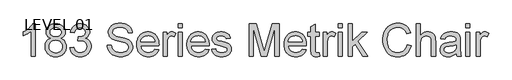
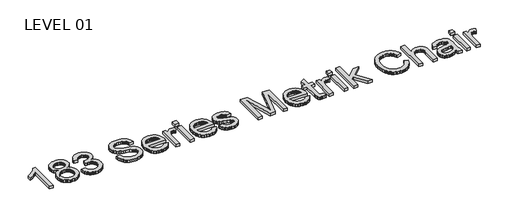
# One storey, incomplete: 1 proxy.
"""IFC4 building model written with IfcOpenShell, lengths in millimetres."""

from ifc_helpers import new_model, si_unit, origin, origin_with_axes, place, context, project, spatial, polyline, outline, extrude, element, save

model = new_model("IFC4")

# Units and contexts
model_context = context("Model", 3, world=origin())
ifc_project = project(units=[si_unit("LENGTHUNIT", "METRE", prefix="MILLI")], contexts=[model_context])

# Site, building, storey
site = spatial("IfcSite", under=ifc_project)
building = spatial("IfcBuilding", under=site)
storey = spatial("IfcBuildingStorey", under=building, Name="LEVEL 01", Elevation=0.0)

# Proxy
placement = place(None, origin())
element("IfcBuildingElementProxy", 1, Name="72\" Arial", ObjectType="72\" Arial", at=placement, inside=storey, context=model_context, shape_type="SweptSolid", body=[
    extrude(outline(polyline([(-28091.2551344, -45475.3556235), (-28315.144589, -45475.3556235), (-28315.144589, -44079.5448053), (-28358.7363468, -44117.356214), (-28408.6140634, -44155.1402925), (-28464.7777388, -44192.8970407), (-28527.2273731, -44230.6264587), (-28651.744018, -44296.6016959), (-28762.9234981, -44343.6643962), (-28762.9234981, -44132.0188962), (-28672.0640631, -44086.45936), (-28587.080633, -44036.3630013), (-28507.9732079, -43981.7298202), (-28434.7417878, -43922.5598167), (-28369.5727932, -43861.5860162), (-28314.6526444, -43801.5414445), (-28269.9813415, -43742.4261015), (-28235.5588844, -43684.2399871), (-28091.2551344, -43684.2399871), (-28091.2551344, -45475.3556235)])), origin_with_axes(), (0.0, 0.0, 1.0), 152.4),
    extrude(outline(polyline([(-27233.3037481, -44488.8427144), (-27297.7074956, -44461.9497428), (-27353.1742495, -44429.8093621), (-27399.7040098, -44392.4215723), (-27437.2967765, -44349.7863735), (-27466.2805126, -44302.3137194), (-27486.9831813, -44250.4135638), (-27499.4047825, -44194.0859069), (-27503.5453163, -44133.3307485), (-27501.2905702, -44086.72583), (-27494.5263319, -44042.0203642), (-27483.2526014, -43999.2143513), (-27467.4693788, -43958.3077911), (-27447.1766639, -43919.3006837), (-27422.3744569, -43882.193029), (-27393.0627577, -43846.9848271), (-27359.2415663, -43813.676078), (-27321.6692973, -43783.3394942), (-27281.1043653, -43757.0477883), (-27237.5467703, -43734.8009601), (-27190.9965123, -43716.5990098), (-27141.4535913, -43702.4419374), (-27088.9180073, -43692.3297428), (-27033.3897603, -43686.262426), (-26974.8688503, -43684.2399871), (-26916.1019681, -43686.310254), (-26860.2730883, -43692.5210546), (-26807.382211, -43702.8723889), (-26757.4293361, -43717.364257), (-26710.4144638, -43735.9966588), (-26666.337594, -43758.7695944), (-26625.1987266, -43785.6830636), (-26586.9978617, -43816.7370667), (-26552.5617395, -43850.763235), (-26522.7171003, -43886.5932002), (-26497.4639441, -43924.2269623), (-26476.8022708, -43963.6645212), (-26460.7320805, -44004.905877), (-26449.2533731, -44047.9510297), (-26442.3661486, -44092.7999793), (-26440.0704072, -44139.4527258), (-26444.1562804, -44198.0624591), (-26456.4139001, -44252.7639658), (-26476.8432662, -44303.557246), (-26505.4443788, -44350.4422996), (-26542.3538891, -44392.7905308), (-26587.7084484, -44429.9733437), (-26641.5080567, -44461.9907382), (-26703.752714, -44488.8427144), (-26630.1660006, -44520.1495223), (-26565.9535648, -44559.8467187), (-26511.1154068, -44607.9343035), (-26465.6515265, -44664.4122769), (-26429.9718777, -44728.023447), (-26404.4864143, -44797.5106221), (-26389.1951362, -44872.8738021), (-26384.0980435, -44954.1129871), (-26386.6260922, -45011.1102353), (-26394.2102381, -45065.7844118), (-26406.8504814, -45118.1355166), (-26424.5468219, -45168.1635496), (-26447.2992598, -45215.8685109), (-26475.1077949, -45261.2504005), (-26507.9724274, -45304.3092183), (-26545.8931572, -45345.0449644), (-26587.9407555, -45382.1457865), (-26633.1859938, -45414.2998323), (-26681.628872, -45441.5071018), (-26733.2693901, -45463.7675951), (-26788.1075481, -45481.081312), (-26846.1433461, -45493.4482527), (-26907.3767839, -45500.8684172), (-26971.8078617, -45503.3418053), (-27036.2389395, -45500.8581683), (-27097.4723773, -45493.4072574), (-27155.5081753, -45480.9890724), (-27210.3463333, -45463.6036135), (-27261.9868514, -45441.2508807), (-27310.4297296, -45413.9308738), (-27355.6749679, -45381.643593), (-27397.7225663, -45344.3890383), (-27435.643296, -45303.4244013), (-27468.5079285, -45260.0068738), (-27496.3164636, -45214.136456), (-27519.0689015, -45165.8131476), (-27536.765242, -45115.0369489), (-27549.4054853, -45061.8078596), (-27556.9896312, -45006.12588), (-27559.5176799, -44947.9910098), (-27554.2156103, -44863.0485752), (-27538.3094015, -44785.321328), (-27511.7990535, -44714.8092684), (-27494.5673273, -44682.2589339), (-27474.6845663, -44651.5123962), (-27452.3557474, -44622.8566231), (-27427.7858475, -44596.5785823), (-27400.9748667, -44572.6782737), (-27371.9228049, -44551.1556973), (-27307.0954384, -44515.2437414), (-27233.3037481, -44488.8427144)]), holes=[polyline([(-27279.6558617, -44139.8900098), (-27274.6954203, -44191.21623), (-27259.8140961, -44237.6230042), (-27235.0118891, -44279.1103323), (-27200.2887992, -44315.6782144), (-27156.0821106, -44345.5228536), (-27102.8291074, -44366.840453), (-27040.5297896, -44379.6310127), (-26969.1841572, -44383.8945326), (-26899.6013262, -44379.6583429), (-26838.654856, -44366.9497741), (-26786.3447466, -44345.7688259), (-26742.6709981, -44316.1154985), (-26708.2348759, -44280.3128635), (-26683.6376458, -44240.6839928), (-26668.8793077, -44197.2288863), (-26663.9598617, -44149.9475439), (-26669.0432893, -44100.8214093), (-26684.2935719, -44055.7674829), (-26709.7107097, -44014.7857645), (-26745.2947026, -43977.8762542), (-26789.9523404, -43947.3620237), (-26842.5904128, -43925.5661448), (-26903.2089199, -43912.4886174), (-26971.8078617, -43908.1294417), (-27040.9397435, -43912.3929616), (-27101.8452182, -43925.1835212), (-27154.5242861, -43946.5011206), (-27198.9769469, -43976.3457598), (-27234.2739721, -44012.1483948), (-27259.486133, -44051.3399814), (-27274.6134295, -44093.9205198), (-27279.6558617, -44139.8900098)]), polyline([(-27335.6282253, -44940.1198962), (-27333.2914885, -44983.2880351), (-27326.2812779, -45025.7729175), (-27314.5975936, -45067.5745436), (-27298.2404356, -45108.6929133), (-27275.9526121, -45147.1602481), (-27246.4769313, -45181.0087698), (-27209.8133933, -45210.2384782), (-27165.9619981, -45234.8493735), (-27118.1340506, -45254.363176), (-27069.540856, -45268.3016064), (-27020.1824143, -45276.6646647), (-26970.0587253, -45279.4523508), (-26889.106508, -45273.5900109), (-26852.1969977, -45266.2620861), (-26817.6652197, -45256.0029914), (-26785.5111739, -45242.8127267), (-26755.7348603, -45226.6912922), (-26728.336279, -45207.6386877), (-26703.3154299, -45185.6549133), (-26680.9729459, -45161.4095602), (-26661.6094597, -45135.5722197), (-26645.2249714, -45108.1428919), (-26631.819481, -45079.1215766), (-26621.3929885, -45048.508274), (-26613.9454938, -45016.3029839), (-26607.9874981, -44947.1164417), (-26609.524825, -44911.1771554), (-26614.1368056, -44876.8230241), (-26621.82344, -44844.0540475), (-26632.5847282, -44812.8702258), (-26646.4206701, -44783.2715589), (-26663.3312658, -44755.2580468), (-26683.3165153, -44728.8296895), (-26706.3764185, -44703.9864871), (-26732.1351845, -44681.4390262), (-26760.2170222, -44661.8978934), (-26790.6219317, -44645.3630887), (-26823.3499128, -44631.8346121), (-26858.4009658, -44621.3124637), (-26895.7750904, -44613.7966434), (-26977.4925549, -44607.7839871), (-27057.2559061, -44613.7146526), (-27093.6632229, -44621.1279845), (-27127.7543006, -44631.5066491), (-27159.5291391, -44644.8506464), (-27188.9877385, -44661.1599765), (-27216.1300987, -44680.4346393), (-27240.9562197, -44702.6746348), (-27263.144971, -44727.1420462), (-27282.3752221, -44753.0989566), (-27298.6469731, -44780.5453658), (-27311.9602239, -44809.4812741), (-27322.3149745, -44839.9066812), (-27329.711225, -44871.8215873), (-27335.6282253, -44940.1198962)])]), origin_with_axes(), (0.0, 0.0, 1.0), 152.4),
    extrude(outline(polyline([(-26188.1947708, -44999.5905326), (-25964.3053163, -44971.6043508), (-25942.154144, -45047.6644523), (-25914.1816273, -45112.300507), (-25880.3877662, -45165.5125148), (-25840.7725606, -45207.3004758), (-25794.4341121, -45238.8669211), (-25740.4705222, -45261.414382), (-25678.881791, -45274.9428586), (-25609.6679185, -45279.4523508), (-25568.0166089, -45277.9013587), (-25528.5517197, -45273.2483827), (-25491.2732509, -45265.4934227), (-25456.1812026, -45254.6364786), (-25423.2755748, -45240.6775505), (-25392.5563674, -45223.6166384), (-25364.0235805, -45203.4537423), (-25337.677214, -45180.1888621), (-25314.00238, -45154.6350731), (-25293.4841905, -45127.6054502), (-25276.1226456, -45099.0999935), (-25261.9177452, -45069.118703), (-25250.8694894, -45037.6615787), (-25242.977878, -45004.7286206), (-25238.2429112, -44970.3198287), (-25236.664589, -44934.435203), (-25238.2292461, -44900.2074741), (-25242.9232175, -44867.4897417), (-25250.7465032, -44836.282006), (-25261.6991032, -44806.5842669), (-25275.7810174, -44778.3965245), (-25292.9922459, -44751.7187787), (-25313.3327887, -44726.5510295), (-25336.8026458, -44702.8932769), (-25362.6843979, -44681.4219448), (-25390.2606259, -44662.8134569), (-25419.5313297, -44647.0678134), (-25450.4965094, -44634.1850141), (-25483.156165, -44624.1650591), (-25517.5102964, -44617.0079484), (-25591.3019867, -44611.2822598), (-25662.0326884, -44617.4042371), (-25748.2869753, -44635.7701689), (-25723.3617822, -44411.8807144), (-25687.5044867, -44414.5044189), (-25618.6595726, -44410.4868714), (-25553.3675918, -44398.4342286), (-25491.6285442, -44378.3464907), (-25433.4424299, -44350.2236576), (-25407.0004075, -44333.0739221), (-25384.0839881, -44313.7650965), (-25364.6931717, -44292.2971807), (-25348.8279583, -44268.6701746), (-25336.4883479, -44242.8840784), (-25327.6743404, -44214.9388919), (-25322.3859359, -44184.8346153), (-25320.6231344, -44152.5712485), (-25325.7338922, -44101.9419498), (-25341.0661657, -44055.8768039), (-25366.6199547, -44014.3758106), (-25402.3952594, -43977.4389701), (-25446.2329895, -43947.1160514), (-25495.9740549, -43925.4568238), (-25551.6184555, -43912.4612872), (-25613.1661913, -43908.1294417), (-25674.5499455, -43912.5022826), (-25730.5769697, -43925.6208053), (-25781.2472637, -43947.4850098), (-25826.5608276, -43978.0948962), (-25865.3971209, -44017.4504644), (-25896.6356032, -44065.5517144), (-25920.2762743, -44122.3986462), (-25936.3191344, -44187.9912598), (-26160.208589, -44160.005078), (-26148.5454024, -44104.9687756), (-26133.6709107, -44053.1164481), (-26115.585114, -44004.4480953), (-26094.2880123, -43958.9637172), (-26069.7796055, -43916.663314), (-26042.0598937, -43877.5468856), (-26011.1288768, -43841.6144319), (-25976.9865549, -43808.865953), (-25940.1453702, -43779.6567423), (-25901.1177651, -43754.3420929), (-25859.9037395, -43732.9220051), (-25816.5032935, -43715.3964786), (-25770.916427, -43701.7655136), (-25723.1431401, -43692.02911), (-25673.1834327, -43686.1872678), (-25621.0373049, -43684.2399871), (-25549.2270581, -43688.079888), (-25480.2864881, -43699.5995908), (-25414.215595, -43718.7990954), (-25351.0143788, -43745.6784019), (-25292.8829249, -43779.2126256), (-25242.0213191, -43818.376882), (-25198.4295613, -43863.1711711), (-25162.1076515, -43913.5954928), (-25133.5065389, -43967.6410734), (-25113.0771728, -44023.2991391), (-25100.8195531, -44080.5696899), (-25096.7336799, -44139.4527258), (-25100.6145762, -44194.8238238), (-25112.2572651, -44247.6805383), (-25131.6617466, -44298.0228692), (-25158.8280208, -44345.8508167), (-25193.592106, -44390.0438401), (-25235.7900208, -44429.4813991), (-25285.4217651, -44464.1634935), (-25342.487339, -44494.0901235), (-25267.875741, -44517.4301618), (-25233.9725588, -44532.8307609), (-25202.3377878, -44550.7184133), (-25172.9714281, -44571.0931189), (-25145.8734796, -44593.9548777), (-25121.0439423, -44619.3036899), (-25098.4828163, -44647.1395553), (-25078.3950783, -44677.1345109), (-25060.9857055, -44708.9605937), (-25034.2020549, -44778.1061405), (-25018.1318645, -44854.5761959), (-25012.7751344, -44938.3707598), (-25015.4534995, -44996.2835716), (-25023.4885947, -45051.9553025), (-25036.8804199, -45105.3859523), (-25055.6289753, -45156.5755212), (-25079.7342609, -45205.5240091), (-25109.1962765, -45252.2314161), (-25144.0150222, -45296.6977421), (-25184.1904981, -45338.9229871), (-25228.4586797, -45377.4586476), (-25275.5555428, -45410.8562201), (-25325.4810874, -45439.1157044), (-25378.2353134, -45462.2371008), (-25433.8182209, -45480.220409), (-25492.2298099, -45493.0656292), (-25553.4700803, -45500.7727613), (-25617.5390322, -45503.3418053), (-25675.4245137, -45501.1485523), (-25730.7956117, -45494.5687932), (-25783.6523262, -45483.6025281), (-25833.9946572, -45468.249757), (-25881.8226046, -45448.5104798), (-25927.1361685, -45424.3846966), (-25969.9353489, -45395.8724074), (-26010.2201458, -45362.9736121), (-26047.1501538, -45326.5902092), (-26079.8849675, -45287.6240972), (-26108.424587, -45246.075276), (-26132.7690123, -45201.9437456), (-26152.9182433, -45155.2295061), (-26168.87228, -45105.9325574), (-26180.6311225, -45054.0528996), (-26188.1947708, -44999.5905326)])), origin_with_axes(), (0.0, 0.0, 1.0), 152.4),
    extrude(outline(polyline([(-24117.2173163, -44859.6596235), (-23893.3278617, -44859.6596235), (-23883.0790158, -44924.8286182), (-23867.6374214, -44983.9029658), (-23847.0030783, -45036.8826665), (-23821.1759867, -45083.7677201), (-23788.8442942, -45125.5010205), (-23748.6961486, -45163.0254616), (-23700.7315499, -45196.3410432), (-23644.9504981, -45225.4477655), (-23583.4027623, -45249.0747716), (-23518.1381117, -45265.9512044), (-23449.1565464, -45276.0770642), (-23376.4580663, -45279.4523508), (-23312.1499746, -45276.8969718), (-23251.7227793, -45269.2308351), (-23195.1764803, -45256.4539406), (-23142.5110776, -45238.5662883), (-23095.0247584, -45216.2101391), (-23054.0157097, -45190.0277542), (-23019.4839317, -45160.0191334), (-22991.4294242, -45126.1842769), (-22969.7155361, -45089.9853532), (-22954.205616, -45052.8845312), (-22944.8996639, -45014.8818106), (-22941.7976799, -44975.9771917), (-22944.1207516, -44937.2365542), (-22951.0899668, -44901.0376306), (-22962.7053255, -44867.3804207), (-22978.9668276, -44836.2649246), (-23002.416187, -44807.5271608), (-23035.5951174, -44781.0031476), (-23078.5036188, -44756.6928852), (-23131.1416913, -44734.5963735), (-23249.3723773, -44699.4496647), (-23457.136981, -44649.1073337), (-23573.7688471, -44620.4788909), (-23671.132883, -44592.5337044), (-23749.2290886, -44565.2717744), (-23808.057464, -44538.6931008), (-23867.8423983, -44503.0271171), (-23919.5102466, -44463.3709161), (-23963.0610091, -44419.7244978), (-23998.4946856, -44372.0878621), (-24025.9479274, -44320.9529537), (-24045.5573859, -44266.8117172), (-24057.3230609, -44209.6641526), (-24061.2449526, -44149.5102598), (-24056.3938322, -44082.8381011), (-24041.8404711, -44018.3796931), (-24017.5848692, -43956.1350358), (-23983.6270265, -43896.1041292), (-23940.3495666, -43840.7330312), (-23888.1351131, -43792.4677996), (-23826.983666, -43751.3084346), (-23756.8952253, -43717.254936), (-23680.2338582, -43690.5669413), (-23599.3636316, -43671.504088), (-23514.2845457, -43660.066376), (-23424.9966003, -43656.2538053), (-23327.5915691, -43660.2440226), (-23236.0898731, -43672.2146746), (-23150.4915123, -43692.1657613), (-23070.7964867, -43720.0972826), (-22998.4806302, -43755.7632662), (-22935.0197765, -43798.91774), (-22880.4139256, -43849.5607037), (-22834.6630776, -43907.6921576), (-22798.1225258, -43971.6176256), (-22771.1475634, -44039.642632), (-22753.7381905, -44111.7671767), (-22745.8944072, -44187.9912598), (-22969.7838617, -44187.9912598), (-22975.8785087, -44151.1090798), (-22984.7608418, -44116.5499715), (-22996.430861, -44084.3139349), (-23010.8885663, -44054.4009701), (-23028.1339576, -44026.811077), (-23048.167035, -44001.5442556), (-23070.9877985, -43978.6005059), (-23096.5962481, -43957.979828), (-23125.2178583, -43939.7368824), (-23157.0781039, -43923.9263294), (-23192.1769848, -43910.5481693), (-23230.5145009, -43899.6024019), (-23316.9054391, -43885.0080454), (-23416.2509185, -43880.1432598), (-23518.7667076, -43884.9533848), (-23606.360177, -43899.3837598), (-23644.5610419, -43910.2065411), (-23679.0313269, -43923.4343848), (-23709.771032, -43939.0672911), (-23736.7801572, -43957.1052598), (-23780.7818688, -43997.5813685), (-23812.2116628, -44042.0476945), (-23823.2120908, -44065.777189), (-23831.0695393, -44090.5042378), (-23835.7840084, -44116.228841), (-23837.3554981, -44142.9509985), (-23832.9006664, -44188.0732506), (-23819.5361714, -44228.9866434), (-23797.262013, -44265.6911767), (-23766.0781913, -44298.1868508), (-23745.0612246, -44313.5327893), (-23716.993052, -44328.9607187), (-23639.703089, -44360.0625496), (-23534.208302, -44391.4923437), (-23400.5086913, -44423.2501008), (-23264.8959626, -44454.2152804), (-23153.6618219, -44483.2673422), (-23066.8062694, -44510.4062861), (-23004.3293049, -44535.6321121), (-22935.6893677, -44573.8671398), (-22876.6970109, -44616.857632), (-22827.3522342, -44664.6035887), (-22787.6550378, -44717.1050098), (-22757.1408074, -44774.0885929), (-22735.3449285, -44835.2810354), (-22722.2674011, -44900.6823373), (-22717.9082253, -44970.2924985), (-22722.9233273, -45040.3262787), (-22737.968633, -45108.3102897), (-22763.0441426, -45174.2445315), (-22798.149856, -45238.1290042), (-22842.6708425, -45297.4903195), (-22895.9921714, -45349.8550894), (-22958.1138425, -45395.2233138), (-23029.035856, -45433.5949928), (-23106.6947775, -45464.1092233), (-23189.0271728, -45485.9051022), (-23276.0330417, -45498.9826295), (-23367.7123844, -45503.3418053), (-23482.2398209, -45498.6410013), (-23587.0650165, -45484.5385894), (-23682.1879714, -45461.0345695), (-23767.6086856, -45428.1289417), (-23843.8464338, -45385.7670454), (-23878.7164238, -45361.0194988), (-23911.420491, -45333.8942201), (-23941.9586354, -45304.3912091), (-23970.3308571, -45272.5104658), (-24020.5775322, -45201.6157826), (-24061.0536408, -45123.5059118), (-24090.6523077, -45040.4765951), (-24109.3735329, -44952.5278323), (-24117.2173163, -44859.6596235)])), origin_with_axes(), (0.0, 0.0, 1.0), 152.4),
    extrude(outline(polyline([(-21489.1399299, -45083.549078), (-21269.6233163, -45111.5352598), (-21284.9795037, -45156.8009958), (-21303.2805261, -45199.4566924), (-21324.5263836, -45239.5023495), (-21348.7170762, -45276.9379672), (-21375.8526038, -45311.7635455), (-21405.9329665, -45343.9790844), (-21438.9581642, -45373.5845839), (-21474.9281969, -45400.5800439), (-21513.6654181, -45424.6648318), (-21554.992181, -45445.5383145), (-21598.9084856, -45463.2004923), (-21645.4143319, -45477.651365), (-21694.5097199, -45488.8909326), (-21746.1946497, -45496.9191952), (-21800.4691212, -45501.7361528), (-21857.3331344, -45503.3418053), (-21928.6855995, -45500.5712006), (-21996.2528241, -45492.2593866), (-22060.0348083, -45478.4063633), (-22120.031552, -45459.0121306), (-22176.2430554, -45434.0766886), (-22228.6693184, -45403.6000372), (-22277.3103409, -45367.5821765), (-22322.1661231, -45326.0231064), (-22362.4440874, -45279.4625996), (-22397.3516565, -45228.4404285), (-22426.8888303, -45172.9565932), (-22451.0556089, -45113.0110937), (-22469.8519922, -45048.6039299), (-22483.2779803, -44979.7351018), (-22491.3335732, -44906.4046095), (-22494.0187708, -44828.612453), (-22491.3062429, -44748.172678), (-22483.1686593, -44672.3653813), (-22469.6060199, -44601.1905629), (-22450.6183248, -44534.6482229), (-22426.2055739, -44472.7383612), (-22396.3677672, -44415.4609779), (-22361.1049049, -44362.8160729), (-22320.4169867, -44314.8036462), (-22275.4040556, -44271.9634704), (-22227.1661543, -44234.8353181), (-22175.7032829, -44203.4191892), (-22121.0154413, -44177.7150837), (-22063.1026295, -44157.7230017), (-22001.9648475, -44143.4429431), (-21937.6020954, -44134.8749079), (-21870.0143731, -44132.0188962), (-21804.6369852, -44134.8680754), (-21742.3137534, -44143.4156128), (-21683.0446777, -44157.6615086), (-21626.829758, -44177.6057627), (-21573.6689944, -44203.2483751), (-21523.5623869, -44234.5893458), (-21476.5099355, -44271.6286748), (-21432.5116401, -44314.3663621), (-21392.6948739, -44362.2694678), (-21358.1870098, -44414.8050517), (-21328.9880479, -44471.9731141), (-21305.0979881, -44533.7736547), (-21286.5168305, -44600.2066737), (-21273.2445751, -44671.2721711), (-21265.2812219, -44746.9701467), (-21262.6267708, -44827.3006008), (-21263.9386231, -44887.6458053), (-22270.1293163, -44887.6458053), (-22265.2474493, -44933.7041187), (-22257.1611099, -44976.9884111), (-22245.8702981, -45017.4986826), (-22231.3750137, -45055.2349331), (-22213.6752569, -45090.1971627), (-22192.7710275, -45122.3853714), (-22168.6623258, -45151.799559), (-22141.3491515, -45178.4397258), (-22111.5420914, -45202.1145597), (-22079.9517321, -45222.6327492), (-22046.5780736, -45239.9942941), (-22011.421116, -45254.1991945), (-21974.4808591, -45265.2474504), (-21935.7573031, -45273.1390617), (-21895.2504479, -45277.8740285), (-21852.9602935, -45279.4523508), (-21791.0299341, -45276.5280134), (-21733.8003788, -45267.7550013), (-21681.2716273, -45253.1333145), (-21633.4436799, -45232.662953), (-21590.3165364, -45205.7973117), (-21551.8901969, -45171.9897854), (-21518.1646614, -45131.2403742), (-21489.1399299, -45083.549078)]), holes=[polyline([(-22270.1293163, -44663.7563508), (-21486.5162253, -44663.7563508), (-21498.022263, -44600.4048181), (-21516.7981486, -44545.4710042), (-21542.8438823, -44498.954909), (-21576.159464, -44460.8565326), (-21605.6351447, -44436.2593025), (-21637.2152552, -44414.941703), (-21670.8997953, -44396.9037343), (-21706.6887651, -44382.1453962), (-21744.5821646, -44370.6666888), (-21784.5799938, -44362.4676121), (-21826.6822527, -44357.5481661), (-21870.8889413, -44355.9083508), (-21949.6137427, -44361.1420947), (-22021.8066131, -44376.8433266), (-22087.4675524, -44403.0120464), (-22146.5965606, -44439.6482542), (-22172.966841, -44461.468047), (-22196.2146398, -44485.057474), (-22216.3399568, -44510.416535), (-22233.3427921, -44537.54523), (-22247.2231457, -44566.4435591), (-22257.9810176, -44597.1115223), (-22265.6164078, -44629.5491195), (-22270.1293163, -44663.7563508)])]), origin_with_axes(), (0.0, 0.0, 1.0), 152.4),
    extrude(outline(polyline([(-21038.7373163, -45475.3556235), (-21038.7373163, -44160.005078), (-20842.8340435, -44160.005078), (-20842.8340435, -44354.5964985), (-20805.9381984, -44292.3928366), (-20770.4635265, -44241.777203), (-20736.4100279, -44202.7495979), (-20703.7777026, -44175.3100212), (-20671.0907168, -44156.370154), (-20636.8732367, -44142.8416775), (-20601.1252623, -44134.7245915), (-20563.8467935, -44132.0188962), (-20508.311714, -44136.3370766), (-20452.3393503, -44149.2916178), (-20395.9297026, -44170.8825198), (-20339.0827708, -44201.1097826), (-20413.8583503, -44401.8231803), (-20453.2139185, -44381.7354424), (-20492.5694867, -44367.3870581), (-20531.9250549, -44358.7780276), (-20571.2806231, -44355.9083508), (-20605.5937591, -44358.6687066), (-20638.1304285, -44366.9497741), (-20668.8906312, -44380.7515532), (-20697.8743674, -44400.0740439), (-20723.9884267, -44424.2886505), (-20746.1395989, -44452.7667769), (-20764.3278841, -44485.5084232), (-20778.5532822, -44522.5135894), (-20794.4321607, -44583.6240411), (-20805.7742168, -44647.5768394), (-20812.5794505, -44714.3719843), (-20814.8478617, -44784.0094758), (-20814.8478617, -45475.3556235), (-21038.7373163, -45475.3556235)])), origin_with_axes(), (0.0, 0.0, 1.0), 152.4),
    extrude(outline(polyline([(-20199.1518617, -43908.1294417), (-20199.1518617, -43684.2399871), (-19975.2624072, -43684.2399871), (-19975.2624072, -43908.1294417), (-20199.1518617, -43908.1294417)])), origin_with_axes(), (0.0, 0.0, 1.0), 152.4),
    extrude(outline(polyline([(-20199.1518617, -45475.3556235), (-20199.1518617, -44160.005078), (-19975.2624072, -44160.005078), (-19975.2624072, -45475.3556235), (-20199.1518617, -45475.3556235)])), origin_with_axes(), (0.0, 0.0, 1.0), 152.4),
    extrude(outline(polyline([(-18718.5079299, -45083.549078), (-18498.9913163, -45111.5352598), (-18514.3475037, -45156.8009958), (-18532.6485261, -45199.4566924), (-18553.8943836, -45239.5023495), (-18578.0850762, -45276.9379672), (-18605.2206038, -45311.7635455), (-18635.3009665, -45343.9790844), (-18668.3261642, -45373.5845839), (-18704.2961969, -45400.5800439), (-18743.0334181, -45424.6648318), (-18784.360181, -45445.5383145), (-18828.2764856, -45463.2004923), (-18874.7823319, -45477.651365), (-18923.8777199, -45488.8909326), (-18975.5626497, -45496.9191952), (-19029.8371212, -45501.7361528), (-19086.7011344, -45503.3418053), (-19158.0535995, -45500.5712006), (-19225.6208241, -45492.2593866), (-19289.4028083, -45478.4063633), (-19349.399552, -45459.0121306), (-19405.6110554, -45434.0766886), (-19458.0373184, -45403.6000372), (-19506.6783409, -45367.5821765), (-19551.5341231, -45326.0231064), (-19591.8120874, -45279.4625996), (-19626.7196565, -45228.4404285), (-19656.2568303, -45172.9565932), (-19680.4236089, -45113.0110937), (-19699.2199922, -45048.6039299), (-19712.6459803, -44979.7351018), (-19720.7015732, -44906.4046095), (-19723.3867708, -44828.612453), (-19720.6742429, -44748.172678), (-19712.5366593, -44672.3653813), (-19698.9740199, -44601.1905629), (-19679.9863248, -44534.6482229), (-19655.5735739, -44472.7383612), (-19625.7357672, -44415.4609779), (-19590.4729049, -44362.8160729), (-19549.7849867, -44314.8036462), (-19504.7720556, -44271.9634704), (-19456.5341543, -44234.8353181), (-19405.0712829, -44203.4191892), (-19350.3834413, -44177.7150837), (-19292.4706295, -44157.7230017), (-19231.3328475, -44143.4429431), (-19166.9700954, -44134.8749079), (-19099.3823731, -44132.0188962), (-19034.0049852, -44134.8680754), (-18971.6817534, -44143.4156128), (-18912.4126777, -44157.6615086), (-18856.197758, -44177.6057627), (-18803.0369944, -44203.2483751), (-18752.9303869, -44234.5893458), (-18705.8779355, -44271.6286748), (-18661.8796401, -44314.3663621), (-18622.0628739, -44362.2694678), (-18587.5550098, -44414.8050517), (-18558.3560479, -44471.9731141), (-18534.4659881, -44533.7736547), (-18515.8848305, -44600.2066737), (-18502.6125751, -44671.2721711), (-18494.6492219, -44746.9701467), (-18491.9947708, -44827.3006008), (-18493.3066231, -44887.6458053), (-19499.4973163, -44887.6458053), (-19494.6154493, -44933.7041187), (-19486.5291099, -44976.9884111), (-19475.2382981, -45017.4986826), (-19460.7430137, -45055.2349331), (-19443.0432569, -45090.1971627), (-19422.1390275, -45122.3853714), (-19398.0303258, -45151.799559), (-19370.7171515, -45178.4397258), (-19340.9100914, -45202.1145597), (-19309.3197321, -45222.6327492), (-19275.9460736, -45239.9942941), (-19240.789116, -45254.1991945), (-19203.8488591, -45265.2474504), (-19165.1253031, -45273.1390617), (-19124.6184479, -45277.8740285), (-19082.3282935, -45279.4523508), (-19020.3979341, -45276.5280134), (-18963.1683788, -45267.7550013), (-18910.6396273, -45253.1333145), (-18862.8116799, -45232.662953), (-18819.6845364, -45205.7973117), (-18781.2581969, -45171.9897854), (-18747.5326614, -45131.2403742), (-18718.5079299, -45083.549078)]), holes=[polyline([(-19499.4973163, -44663.7563508), (-18715.8842253, -44663.7563508), (-18727.390263, -44600.4048181), (-18746.1661486, -44545.4710042), (-18772.2118823, -44498.954909), (-18805.527464, -44460.8565326), (-18835.0031447, -44436.2593025), (-18866.5832552, -44414.941703), (-18900.2677953, -44396.9037343), (-18936.0567651, -44382.1453962), (-18973.9501646, -44370.6666888), (-19013.9479938, -44362.4676121), (-19056.0502527, -44357.5481661), (-19100.2569413, -44355.9083508), (-19178.9817427, -44361.1420947), (-19251.1746131, -44376.8433266), (-19316.8355524, -44403.0120464), (-19375.9645606, -44439.6482542), (-19402.334841, -44461.468047), (-19425.5826398, -44485.057474), (-19445.7079568, -44510.416535), (-19462.7107921, -44537.54523), (-19476.5911457, -44566.4435591), (-19487.3490176, -44597.1115223), (-19494.9844078, -44629.5491195), (-19499.4973163, -44663.7563508)])]), origin_with_axes(), (0.0, 0.0, 1.0), 152.4),
    extrude(outline(polyline([(-18352.0638617, -45083.549078), (-18128.1744072, -45055.5628962), (-18114.6459306, -45106.6158138), (-18092.8637168, -45151.3281121), (-18062.8277658, -45189.6997911), (-18024.5380776, -45221.7308508), (-17977.8853312, -45246.984007), (-17922.7602055, -45265.0219758), (-17859.1627005, -45275.844757), (-17787.0928163, -45279.4523508), (-17715.1049228, -45276.1453898), (-17653.0652424, -45266.224507), (-17600.9737751, -45249.6897023), (-17558.8305208, -45226.5409758), (-17526.3075165, -45198.9374175), (-17503.0767992, -45169.0381178), (-17489.1383688, -45136.8430766), (-17484.4922253, -45102.3522939), (-17489.1656991, -45072.1250312), (-17503.1861202, -45045.2867201), (-17526.5534888, -45021.8373607), (-17559.2678049, -45001.776953), (-17593.3486337, -44988.4397883), (-17643.1170293, -44973.3534871), (-17789.7165208, -44937.9334758), (-17994.0375123, -44878.845463), (-18069.3870272, -44852.5400919), (-18126.8625549, -44828.393811), (-18172.4630865, -44803.0996593), (-18212.1876131, -44773.350676), (-18246.0361348, -44739.1468611), (-18274.0086515, -44700.4882144), (-18295.9138514, -44658.5362719), (-18311.5604228, -44614.4525695), (-18320.9483656, -44568.2371071), (-18324.0776799, -44519.8898848), (-18321.5632964, -44475.6831963), (-18314.0201458, -44433.1436533), (-18301.4482282, -44392.2712559), (-18283.8475435, -44353.0660042), (-18261.9013482, -44316.3204754), (-18236.2928986, -44282.8272471), (-18207.0221948, -44252.5863191), (-18174.0892367, -44225.5976917), (-18145.5154544, -44206.8628014), (-18112.2681984, -44189.5764147), (-18031.7532651, -44159.3491519), (-17986.0160822, -44147.392165), (-17938.6664143, -44138.8514601), (-17889.7042612, -44133.7270372), (-17839.1296231, -44132.0188962), (-17763.8894292, -44134.7655869), (-17693.4046998, -44143.005659), (-17627.6754349, -44156.7391125), (-17566.7016344, -44175.9659473), (-17511.931802, -44199.8799211), (-17464.8144413, -44227.6747911), (-17425.349552, -44259.3505574), (-17393.5371344, -44294.9072201), (-17367.7373731, -44335.5883057), (-17346.3104526, -44382.6373408), (-17329.2563731, -44436.0543255), (-17316.5751344, -44495.8392598), (-17540.464589, -44523.8254417), (-17551.1370538, -44486.4239868), (-17568.7240734, -44453.3680425), (-17593.2256476, -44424.6576089), (-17624.6417765, -44400.292686), (-17663.1091114, -44380.8745393), (-17708.7643035, -44367.0044346), (-17761.6073528, -44358.6823717), (-17821.6382594, -44355.9083508), (-17891.2757509, -44358.5593856), (-17950.1997822, -44366.51249), (-17998.4103532, -44379.767664), (-18035.907464, -44398.3249076), (-18064.0302971, -44420.4077542), (-18084.118035, -44444.2397371), (-18096.1706778, -44469.8208564), (-18100.1882253, -44497.1511121), (-18098.5210797, -44514.8337875), (-18093.519643, -44531.5872343), (-18085.183915, -44547.4114523), (-18073.5138958, -44562.3064417), (-18058.2909434, -44576.7094864), (-18039.2964157, -44589.7460184), (-17989.9926344, -44611.7195439), (-17797.1503503, -44659.3835098), (-17599.3339597, -44717.870257), (-17468.531356, -44764.7689758), (-17422.5072055, -44787.6443998), (-17381.730464, -44815.1659672), (-17346.2011316, -44847.3336782), (-17315.9192083, -44884.1475326), (-17291.7182669, -44925.662191), (-17274.4318802, -44971.9323138), (-17264.0600481, -45022.9579012), (-17260.6027708, -45078.738953), (-17264.6613138, -45134.7659772), (-17276.8369427, -45189.153186), (-17297.1296575, -45241.9005794), (-17325.5394583, -45293.0081576), (-17361.6017307, -45340.4398163), (-17404.8518603, -45382.1594516), (-17455.2898471, -45418.1670635), (-17512.9156913, -45448.4626519), (-17576.1579029, -45472.4722815), (-17643.4449924, -45489.6220169), (-17714.7769597, -45499.9118582), (-17790.1538049, -45503.3418053), (-17852.3096389, -45501.6883248), (-17910.6529022, -45496.7278834), (-17965.1835948, -45488.4604811), (-18015.9017168, -45476.8861178), (-18062.8072681, -45462.0047936), (-18105.9002488, -45443.8165084), (-18145.1806588, -45422.3212623), (-18180.6484981, -45397.5190553), (-18212.6932229, -45369.4645478), (-18241.7042893, -45338.2124005), (-18267.6816973, -45303.7626132), (-18290.6254469, -45266.115186), (-18310.5355382, -45225.2701189), (-18327.4119711, -45181.2274118), (-18341.2547456, -45133.9870649), (-18352.0638617, -45083.549078)])), origin_with_axes(), (0.0, 0.0, 1.0), 152.4),
    extrude(outline(polyline([(-16281.0864072, -45475.3556235), (-16281.0864072, -43684.2399871), (-15895.8391231, -43684.2399871), (-15529.3950549, -44946.6791576), (-15455.4940435, -45210.3614644), (-15375.4710549, -44924.814953), (-15015.148964, -43684.2399871), (-14629.9016799, -43684.2399871), (-14629.9016799, -45475.3556235), (-14853.7911344, -45475.3556235), (-14853.7911344, -43908.1294417), (-15303.756464, -45475.3556235), (-15607.2316231, -45475.3556235), (-16057.1969526, -43908.1294417), (-16057.1969526, -45475.3556235), (-16281.0864072, -45475.3556235)])), origin_with_axes(), (0.0, 0.0, 1.0), 152.4),
    extrude(outline(polyline([(-13345.1610208, -45083.549078), (-13125.6444072, -45111.5352598), (-13141.0005946, -45156.8009958), (-13159.301617, -45199.4566924), (-13180.5474745, -45239.5023495), (-13204.7381671, -45276.9379672), (-13231.8736947, -45311.7635455), (-13261.9540574, -45343.9790844), (-13294.9792551, -45373.5845839), (-13330.9492878, -45400.5800439), (-13369.686509, -45424.6648318), (-13411.0132719, -45445.5383145), (-13454.9295765, -45463.2004923), (-13501.4354228, -45477.651365), (-13550.5308108, -45488.8909326), (-13602.2157406, -45496.9191952), (-13656.4902121, -45501.7361528), (-13713.3542253, -45503.3418053), (-13784.7066904, -45500.5712006), (-13852.273915, -45492.2593866), (-13916.0558992, -45478.4063633), (-13976.052643, -45459.0121306), (-14032.2641463, -45434.0766886), (-14084.6904093, -45403.6000372), (-14133.3314318, -45367.5821765), (-14178.187214, -45326.0231064), (-14218.4651783, -45279.4625996), (-14253.3727474, -45228.4404285), (-14282.9099212, -45172.9565932), (-14307.0766998, -45113.0110937), (-14325.8730831, -45048.6039299), (-14339.2990712, -44979.7351018), (-14347.3546641, -44906.4046095), (-14350.0398617, -44828.612453), (-14347.3273338, -44748.172678), (-14339.1897502, -44672.3653813), (-14325.6271108, -44601.1905629), (-14306.6394157, -44534.6482229), (-14282.2266648, -44472.7383612), (-14252.3888582, -44415.4609779), (-14217.1259958, -44362.8160729), (-14176.4380776, -44314.8036462), (-14131.4251465, -44271.9634704), (-14083.1872452, -44234.8353181), (-14031.7243738, -44203.4191892), (-13977.0365322, -44177.7150837), (-13919.1237204, -44157.7230017), (-13857.9859384, -44143.4429431), (-13793.6231863, -44134.8749079), (-13726.035464, -44132.0188962), (-13660.6580761, -44134.8680754), (-13598.3348443, -44143.4156128), (-13539.0657686, -44157.6615086), (-13482.8508489, -44177.6057627), (-13429.6900853, -44203.2483751), (-13379.5834778, -44234.5893458), (-13332.5310264, -44271.6286748), (-13288.532731, -44314.3663621), (-13248.7159648, -44362.2694678), (-13214.2081007, -44414.8050517), (-13185.0091388, -44471.9731141), (-13161.119079, -44533.7736547), (-13142.5379215, -44600.2066737), (-13129.265666, -44671.2721711), (-13121.3023128, -44746.9701467), (-13118.6478617, -44827.3006008), (-13119.959714, -44887.6458053), (-14126.1504072, -44887.6458053), (-14121.2685402, -44933.7041187), (-14113.1822008, -44976.9884111), (-14101.891389, -45017.4986826), (-14087.3961046, -45055.2349331), (-14069.6963478, -45090.1971627), (-14048.7921185, -45122.3853714), (-14024.6834167, -45151.799559), (-13997.3702424, -45178.4397258), (-13967.5631823, -45202.1145597), (-13935.972823, -45222.6327492), (-13902.5991645, -45239.9942941), (-13867.4422069, -45254.1991945), (-13830.50195, -45265.2474504), (-13791.778394, -45273.1390617), (-13751.2715388, -45277.8740285), (-13708.9813844, -45279.4523508), (-13647.0510251, -45276.5280134), (-13589.8214697, -45267.7550013), (-13537.2927182, -45253.1333145), (-13489.4647708, -45232.662953), (-13446.3376273, -45205.7973117), (-13407.9112878, -45171.9897854), (-13374.1857523, -45131.2403742), (-13345.1610208, -45083.549078)]), holes=[polyline([(-14126.1504072, -44663.7563508), (-13342.5373163, -44663.7563508), (-13354.0433539, -44600.4048181), (-13372.8192395, -44545.4710042), (-13398.8649732, -44498.954909), (-13432.1805549, -44460.8565326), (-13461.6562356, -44436.2593025), (-13493.2363461, -44414.941703), (-13526.9208862, -44396.9037343), (-13562.709856, -44382.1453962), (-13600.6032555, -44370.6666888), (-13640.6010847, -44362.4676121), (-13682.7033436, -44357.5481661), (-13726.9100322, -44355.9083508), (-13805.6348337, -44361.1420947), (-13877.827704, -44376.8433266), (-13943.4886433, -44403.0120464), (-14002.6176515, -44439.6482542), (-14028.9879319, -44461.468047), (-14052.2357307, -44485.057474), (-14072.3610477, -44510.416535), (-14089.363883, -44537.54523), (-14103.2442366, -44566.4435591), (-14114.0021085, -44597.1115223), (-14121.6374987, -44629.5491195), (-14126.1504072, -44663.7563508)])]), origin_with_axes(), (0.0, 0.0, 1.0), 152.4),
    extrude(outline(polyline([(-12418.9933163, -45288.6353167), (-12391.0071344, -45481.9148848), (-12479.6664839, -45497.9850752), (-12558.4869413, -45503.3418053), (-12615.6345059, -45501.0187336), (-12665.9495066, -45494.0495184), (-12709.4319434, -45482.4341597), (-12746.0818163, -45466.1726576), (-12776.8556841, -45446.1395802), (-12802.710106, -45423.2094956), (-12823.6450819, -45397.382404), (-12839.6606117, -45368.6583053), (-12851.5219427, -45330.149975), (-12859.9943219, -45274.9701888), (-12865.0777495, -45203.1189466), (-12866.7722253, -45114.5962485), (-12866.7722253, -44383.8945326), (-13034.6893163, -44383.8945326), (-13034.6893163, -44160.005078), (-12866.7722253, -44160.005078), (-12866.7722253, -43840.3504076), (-12642.8827708, -43708.7278962), (-12642.8827708, -44160.005078), (-12418.9933163, -44160.005078), (-12418.9933163, -44383.8945326), (-12642.8827708, -44383.8945326), (-12642.8827708, -45108.0369871), (-12639.9311032, -45181.7193564), (-12631.0761003, -45223.4799871), (-12615.6071756, -45246.6013834), (-12592.8137424, -45264.3660496), (-12560.5093802, -45275.6807755), (-12516.5076685, -45279.4523508), (-12473.7631486, -45281.7480922), (-12418.9933163, -45288.6353167)])), origin_with_axes(), (0.0, 0.0, 1.0), 152.4),
    extrude(outline(polyline([(-12195.1038617, -45475.3556235), (-12195.1038617, -44160.005078), (-11999.200589, -44160.005078), (-11999.200589, -44354.5964985), (-11962.3047438, -44292.3928366), (-11926.8300719, -44241.777203), (-11892.7765734, -44202.7495979), (-11860.1442481, -44175.3100212), (-11827.4572623, -44156.370154), (-11793.2397822, -44142.8416775), (-11757.4918077, -44134.7245915), (-11720.213339, -44132.0188962), (-11664.6782594, -44136.3370766), (-11608.7058958, -44149.2916178), (-11552.2962481, -44170.8825198), (-11495.4493163, -44201.1097826), (-11570.2248958, -44401.8231803), (-11609.580464, -44381.7354424), (-11648.9360322, -44367.3870581), (-11688.2916003, -44358.7780276), (-11727.6471685, -44355.9083508), (-11761.9603045, -44358.6687066), (-11794.4969739, -44366.9497741), (-11825.2571767, -44380.7515532), (-11854.2409128, -44400.0740439), (-11880.3549721, -44424.2886505), (-11902.5061444, -44452.7667769), (-11920.6944295, -44485.5084232), (-11934.9198276, -44522.5135894), (-11950.7987062, -44583.6240411), (-11962.1407623, -44647.5768394), (-11968.9459959, -44714.3719843), (-11971.2144072, -44784.0094758), (-11971.2144072, -45475.3556235), (-12195.1038617, -45475.3556235)])), origin_with_axes(), (0.0, 0.0, 1.0), 152.4),
    extrude(outline(polyline([(-11355.5184072, -45475.3556235), (-11355.5184072, -44160.005078), (-11131.6289526, -44160.005078), (-11131.6289526, -45475.3556235), (-11355.5184072, -45475.3556235)])), origin_with_axes(), (0.0, 0.0, 1.0), 152.4),
    extrude(outline(polyline([(-11355.5184072, -43908.1294417), (-11355.5184072, -43684.2399871), (-11131.6289526, -43684.2399871), (-11131.6289526, -43908.1294417), (-11355.5184072, -43908.1294417)])), origin_with_axes(), (0.0, 0.0, 1.0), 152.4),
    extrude(outline(polyline([(-10795.7947708, -45475.3556235), (-10795.7947708, -43684.2399871), (-10571.9053163, -43684.2399871), (-10571.9053163, -44646.7022712), (-10069.9031799, -44160.005078), (-9760.3060435, -44160.005078), (-10268.4301572, -44652.8242485), (-9732.3198617, -45475.3556235), (-9993.8157481, -45475.3556235), (-10428.9134185, -44808.4973848), (-10571.9053163, -44947.1164417), (-10571.9053163, -45475.3556235), (-10795.7947708, -45475.3556235)])), origin_with_axes(), (0.0, 0.0, 1.0), 152.4),
    extrude(outline(polyline([(-7549.3976799, -44838.6699871), (-7325.5082253, -44896.3914871), (-7345.8214379, -44968.2051502), (-7369.8105698, -45035.6254747), (-7397.4756211, -45098.6524606), (-7428.8165918, -45157.2861079), (-7463.8334819, -45211.5264165), (-7502.5262914, -45261.3733866), (-7544.8950203, -45306.8270181), (-7590.9396685, -45347.887311), (-7640.161459, -45384.3219581), (-7692.0616145, -45415.8986522), (-7746.6401351, -45442.6173935), (-7803.8970208, -45464.4781817), (-7863.8322715, -45481.481017), (-7926.4458873, -45493.6258994), (-7991.7378681, -45500.9128288), (-8059.708214, -45503.3418053), (-8129.642922, -45501.5038456), (-8196.2365062, -45495.9899665), (-8259.4889667, -45486.800168), (-8319.4003035, -45473.9344502), (-8375.9705164, -45457.3928129), (-8429.1996057, -45437.1752563), (-8479.0875711, -45413.2817803), (-8525.6344128, -45385.7123848), (-8569.1715101, -45354.6583818), (-8610.0302424, -45320.311083), (-8648.2106096, -45282.6704884), (-8683.7126117, -45241.7365979), (-8716.5362488, -45197.5094117), (-8746.6815208, -45149.9889296), (-8774.1484278, -45099.1751517), (-8798.9369697, -45045.068078), (-8839.9733486, -44931.5108657), (-8869.2850478, -44813.854115), (-8886.8720673, -44692.0978259), (-8892.7344072, -44566.2419985), (-8891.0775104, -44497.6088939), (-8886.1068202, -44431.2032052), (-8877.8223364, -44367.0249323), (-8866.2240591, -44305.0740752), (-8851.3119884, -44245.350634), (-8833.0861241, -44187.8546086), (-8811.5464664, -44132.585999), (-8786.6930151, -44079.5448053), (-8758.7854078, -44029.1785604), (-8728.0832818, -43981.9347971), (-8694.5866372, -43937.8135156), (-8658.2954739, -43896.8147158), (-8619.209792, -43858.9383977), (-8577.3295915, -43824.1845613), (-8532.6548723, -43792.5532067), (-8485.1856344, -43764.0443337), (-8435.7042065, -43738.7809286), (-8384.9929171, -43716.8859775), (-8333.0517662, -43698.3594805), (-8279.8807538, -43683.2014374), (-8225.4798798, -43671.4118484), (-8169.8491444, -43662.9907133), (-8112.9885474, -43657.9380323), (-8054.898089, -43656.2538053), (-7989.5411988, -43658.4333932), (-7926.842176, -43664.9721569), (-7866.8010205, -43675.8700963), (-7809.4177324, -43691.1272116), (-7754.6923117, -43710.7435026), (-7702.6247584, -43734.7189694), (-7653.2150724, -43763.0536119), (-7606.4632538, -43795.7474303), (-7562.7655912, -43832.3973032), (-7522.5183734, -43872.6001093), (-7485.7216004, -43916.3558486), (-7452.3752722, -43963.6645212), (-7422.4793888, -44014.526127), (-7396.0339501, -44068.9406661), (-7373.0389563, -44126.9081384), (-7353.4944072, -44188.4285439), (-7577.3838617, -44241.777203), (-7612.6398915, -44153.7327843), (-7655.0017878, -44078.5062556), (-7678.8474359, -44045.6996999), (-7704.4695506, -44016.0976167), (-7731.8681319, -43989.700006), (-7761.0431799, -43966.5068678), (-7792.0766852, -43946.2653972), (-7825.0506387, -43928.7227893), (-7859.9650403, -43913.8790442), (-7896.8198901, -43901.7341618), (-7976.3509341, -43885.5409853), (-8063.6437708, -43880.1432598), (-8164.0824604, -43886.1285858), (-8211.0836676, -43893.6102433), (-8255.9394498, -43904.0845638), (-8298.6498068, -43917.5515473), (-8339.2147388, -43934.0111938), (-8377.6342458, -43953.4635033), (-8413.9083276, -43975.9084758), (-8447.8012609, -44000.8746643), (-8479.0773223, -44027.8906221), (-8507.7365117, -44056.956349), (-8533.778829, -44088.0718451), (-8557.2042744, -44121.2371103), (-8578.0128479, -44156.4521448), (-8596.2045493, -44193.7169484), (-8611.7793788, -44233.0315212), (-8636.7455673, -44314.3390319), (-8654.5785591, -44396.9037343), (-8665.2783542, -44480.7256285), (-8668.8449526, -44565.8047144), (-8664.6224281, -44672.7206746), (-8651.9548546, -44772.6400894), (-8630.8422321, -44865.5629587), (-8601.2845606, -44951.4892826), (-8583.2192616, -44991.4017047), (-8562.8035606, -45028.71092), (-8540.0374576, -45063.4169284), (-8514.9209526, -45095.51973), (-8487.4540457, -45125.0193247), (-8457.6367367, -45151.9157126), (-8425.4690258, -45176.2088936), (-8390.9509128, -45197.8988678), (-8318.1021163, -45233.5785166), (-8242.3289824, -45259.06398), (-8163.6315112, -45274.3552581), (-8082.0097026, -45279.4523508), (-8032.3677095, -45277.7168795), (-7984.672997, -45272.5104658), (-7938.9255653, -45263.8331096), (-7895.1254143, -45251.684811), (-7853.272544, -45236.0655699), (-7813.3669544, -45216.9753863), (-7775.4086455, -45194.4142602), (-7739.3976174, -45168.3821917), (-7705.7711541, -45138.9338412), (-7674.9665396, -45106.1238692), (-7646.9837741, -45069.9522758), (-7621.8228574, -45030.419061), (-7599.4837897, -44987.5242247), (-7579.9665709, -44941.2677669), (-7563.2712009, -44891.6496878), (-7549.3976799, -44838.6699871)])), origin_with_axes(), (0.0, 0.0, 1.0), 152.4),
    extrude(outline(polyline([(-7045.6464072, -45475.3556235), (-7045.6464072, -43684.2399871), (-6821.7569526, -43684.2399871), (-6821.7569526, -44342.789828), (-6781.9026073, -44293.3903909), (-6739.5202133, -44250.5775454), (-6694.6097706, -44214.3512915), (-6647.1712793, -44184.7116292), (-6597.2047394, -44161.6585585), (-6544.7101508, -44145.1920794), (-6489.6875135, -44135.312192), (-6432.1368276, -44132.0188962), (-6362.1440428, -44135.6128248), (-6296.9067225, -44146.3946107), (-6236.4248667, -44164.3642538), (-6180.6984753, -44189.5217542), (-6131.1487218, -44221.0198738), (-6089.1967793, -44258.0113749), (-6054.8426479, -44300.4962574), (-6028.0863276, -44348.4745212), (-6007.9985897, -44404.9114992), (-5993.6502055, -44472.7725241), (-5985.0411749, -44552.0575958), (-5982.1714981, -44642.7667144), (-5982.1714981, -45475.3556235), (-6206.0609526, -45475.3556235), (-6206.0609526, -44665.9427712), (-6210.5157843, -44590.347284), (-6223.8802793, -44525.7932201), (-6246.1544377, -44472.2805794), (-6260.6326406, -44449.6647929), (-6277.3382594, -44429.8093621), (-6316.6938276, -44397.4776696), (-6363.4832253, -44374.3836036), (-6417.7064526, -44360.527164), (-6479.3635094, -44355.9083508), (-6527.3964338, -44359.0239999), (-6573.9808546, -44368.3709473), (-6619.1167719, -44383.9491931), (-6662.8041856, -44405.7587371), (-6702.6790286, -44432.897681), (-6736.3772339, -44464.4641263), (-6763.8988013, -44500.4580731), (-6785.243731, -44540.8795212), (-6801.2182655, -44587.5869282), (-6812.6286472, -44642.4387513), (-6819.4748763, -44705.4349907), (-6821.7569526, -44776.5756462), (-6821.7569526, -45475.3556235), (-7045.6464072, -45475.3556235)])), origin_with_axes(), (0.0, 0.0, 1.0), 152.4),
    extrude(outline(polyline([(-4834.7380435, -45307.4385326), (-4887.8270652, -45357.2615887), (-4941.7086643, -45399.1588706), (-4996.3828408, -45433.1303785), (-5051.8495947, -45459.1761121), (-5108.7375219, -45478.4986029), (-5167.6752182, -45492.300382), (-5228.6626838, -45500.5814495), (-5291.6999185, -45503.3418053), (-5343.0773829, -45501.6814923), (-5391.3870261, -45496.7005532), (-5436.6288481, -45488.398988), (-5478.8028489, -45476.7767968), (-5517.9090285, -45461.8339795), (-5553.9473869, -45443.5705361), (-5586.9179241, -45421.9864667), (-5616.8206401, -45397.0817712), (-5643.4163952, -45369.5943666), (-5666.4660496, -45340.2621696), (-5685.9696033, -45309.0851805), (-5701.9270563, -45276.0633991), (-5714.3384087, -45241.1968254), (-5723.2036604, -45204.4854594), (-5728.5228114, -45165.9293012), (-5730.2958617, -45125.5283508), (-5727.6174966, -45078.0556966), (-5719.5824015, -45032.7148025), (-5706.1905762, -44989.5056682), (-5687.4420208, -44948.4282939), (-5664.3342896, -44910.384578), (-5637.864937, -44876.2764189), (-5608.0339629, -44846.1038167), (-5574.8413674, -44819.8667712), (-5538.888416, -44797.073338), (-5500.7763745, -44777.2315723), (-5460.5052427, -44760.3414743), (-5418.0750208, -44746.4030439), (-5337.505427, -44729.2396434), (-5224.3581685, -44712.7321689), (-5101.2080364, -44695.7874104), (-4995.4399469, -44677.3121576), (-4907.0539001, -44657.3064104), (-4836.0498958, -44635.7701689), (-4834.7380435, -44585.9197826), (-4838.5916096, -44531.6418948), (-4850.1523077, -44486.0003678), (-4869.420138, -44448.9952016), (-4896.3951003, -44420.6263962), (-4943.0205165, -44392.3122513), (-4999.8127878, -44372.0878621), (-5066.7719143, -44359.9532286), (-5143.8978958, -44355.9083508), (-5215.6124867, -44358.6003809), (-5277.2695435, -44366.6764715), (-5328.8690663, -44380.1366224), (-5370.4110549, -44398.9808337), (-5404.5465442, -44424.6849392), (-5433.9265691, -44458.7247726), (-5458.5511295, -44501.1003341), (-5478.4202253, -44551.8116235), (-5702.3096799, -44523.8254417), (-5685.2692655, -44459.3260383), (-5663.4460563, -44401.3858962), (-5636.8400524, -44350.0050155), (-5605.4512538, -44305.1833962), (-5567.9268127, -44266.0191398), (-5522.9138816, -44231.6103479), (-5470.4124604, -44201.9570205), (-5410.4225492, -44177.0591576), (-5344.1603443, -44157.3540432), (-5272.8420421, -44143.2789616), (-5196.4676426, -44134.8339125), (-5115.0371458, -44132.0188962), (-5035.4377761, -44134.5059495), (-4963.6821898, -44141.9671093), (-4899.7703869, -44154.4023756), (-4843.7023674, -44171.8117485), (-4795.0135169, -44192.9790315), (-4753.2392211, -44216.6880283), (-4718.37948, -44242.9387389), (-4690.4342935, -44271.7311633), (-4667.7775116, -44303.775888), (-4648.7829839, -44339.7834999), (-4633.4507104, -44379.7539988), (-4621.7806913, -44423.6873848), (-4613.5816145, -44501.0866689), (-4610.848589, -44619.5906576), (-4610.848589, -44898.1406235), (-4608.0062424, -45140.7786334), (-4599.4792026, -45287.1048223), (-4582.6437651, -45383.2526618), (-4554.8762253, -45475.3556235), (-4778.7656799, -45475.3556235), (-4798.662106, -45437.9678337), (-4814.6229753, -45397.5190553), (-4826.6482878, -45354.0092883), (-4834.7380435, -45307.4385326)]), holes=[polyline([(-4834.7380435, -44859.6596235), (-4902.4077566, -44879.0367748), (-4985.1637708, -44896.9380922), (-5083.0060861, -44913.3635759), (-5195.9347026, -44928.3132258), (-5312.0882893, -44945.4766263), (-5388.5583447, -44964.6078053), (-5415.2463393, -44975.8405404), (-5438.6820336, -44989.4236775), (-5458.8654274, -45005.3572165), (-5475.7965208, -45023.6411576), (-5489.1883461, -45043.6195745), (-5498.7539356, -45064.6365411), (-5504.4932893, -45086.6920574), (-5506.4064072, -45109.7861235), (-5502.2385432, -45144.577539), (-5489.7349512, -45176.3626263), (-5468.8956312, -45205.1413856), (-5439.7205833, -45230.9138167), (-5402.4831099, -45252.1494253), (-5357.4565137, -45267.3177172), (-5304.6407946, -45276.4186924), (-5244.0359526, -45279.4523508), (-5182.1602538, -45276.1043944), (-5123.7828276, -45266.0605255), (-5068.9036742, -45249.3207439), (-5017.5227935, -45225.8850496), (-4971.1706799, -45197.6938909), (-4931.3778276, -45166.6877158), (-4898.1442367, -45132.8665244), (-4871.4699072, -45096.2303167), (-4855.9736522, -45063.4340098), (-4844.9048986, -45023.6411576), (-4838.2636465, -44976.8517598), (-4836.0498958, -44923.0658167), (-4834.7380435, -44859.6596235)])]), origin_with_axes(), (0.0, 0.0, 1.0), 152.4),
    extrude(outline(polyline([(-4303.000589, -45475.3556235), (-4303.000589, -44160.005078), (-4079.1111344, -44160.005078), (-4079.1111344, -45475.3556235), (-4303.000589, -45475.3556235)])), origin_with_axes(), (0.0, 0.0, 1.0), 152.4),
    extrude(outline(polyline([(-4303.000589, -43908.1294417), (-4303.000589, -43684.2399871), (-4079.1111344, -43684.2399871), (-4079.1111344, -43908.1294417), (-4303.000589, -43908.1294417)])), origin_with_axes(), (0.0, 0.0, 1.0), 152.4),
    extrude(outline(polyline([(-3743.2769526, -45475.3556235), (-3743.2769526, -44160.005078), (-3547.3736799, -44160.005078), (-3547.3736799, -44354.5964985), (-3510.4778347, -44292.3928366), (-3475.0031628, -44241.777203), (-3440.9496643, -44202.7495979), (-3408.317339, -44175.3100212), (-3375.6303532, -44156.370154), (-3341.4128731, -44142.8416775), (-3305.6648986, -44134.7245915), (-3268.3864299, -44132.0188962), (-3212.8513503, -44136.3370766), (-3156.8789867, -44149.2916178), (-3100.469339, -44170.8825198), (-3043.6224072, -44201.1097826), (-3118.3979867, -44401.8231803), (-3157.7535549, -44381.7354424), (-3197.1091231, -44367.3870581), (-3236.4646913, -44358.7780276), (-3275.8202594, -44355.9083508), (-3310.1333954, -44358.6687066), (-3342.6700648, -44366.9497741), (-3373.4302676, -44380.7515532), (-3402.4140038, -44400.0740439), (-3428.5280631, -44424.2886505), (-3450.6792353, -44452.7667769), (-3468.8675204, -44485.5084232), (-3483.0929185, -44522.5135894), (-3498.9717971, -44583.6240411), (-3510.3138532, -44647.5768394), (-3517.1190868, -44714.3719843), (-3519.3874981, -44784.0094758), (-3519.3874981, -45475.3556235), (-3743.2769526, -45475.3556235)])), origin_with_axes(), (0.0, 0.0, 1.0), 152.4),
])

save(model, "model.ifc")
